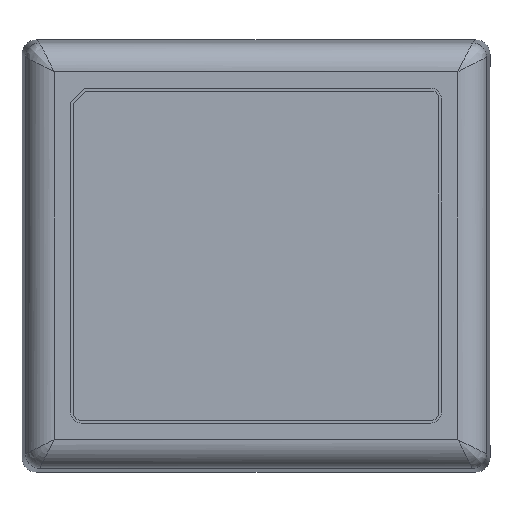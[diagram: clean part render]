
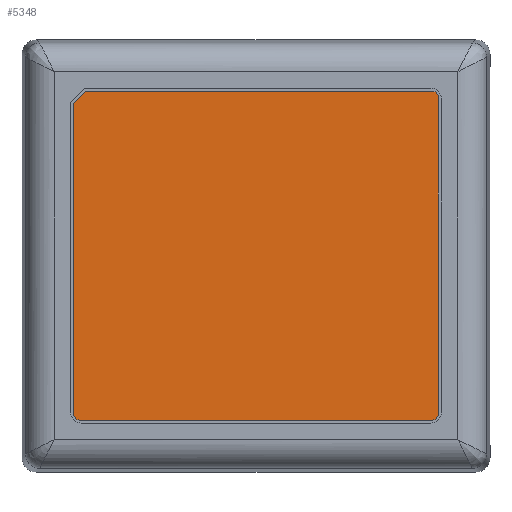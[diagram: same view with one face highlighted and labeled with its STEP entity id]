
A CAD part, top view. The second image highlights one B-rep face of the part: STEP entity #5348.
In plain terms, the highlighted planar face has unit normal (0, 0, 1).
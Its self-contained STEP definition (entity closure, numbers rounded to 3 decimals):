
#26 = AXIS2_PLACEMENT_3D ( 'NONE', #8349, #7693, #5554 ) ;
#31 = LINE ( 'NONE', #8847, #8707 ) ;
#173 = VERTEX_POINT ( 'NONE', #8830 ) ;
#219 = CARTESIAN_POINT ( 'NONE',  ( 25.501, -22.046, 31.93 ) ) ;
#634 = VERTEX_POINT ( 'NONE', #3092 ) ;
#658 = CARTESIAN_POINT ( 'NONE',  ( -25.501, 21.32, 31.93 ) ) ;
#679 = FACE_OUTER_BOUND ( 'NONE', #8779, .T. ) ;
#766 = ORIENTED_EDGE ( 'NONE', *, *, #6660, .T. ) ;
#778 = VERTEX_POINT ( 'NONE', #2248 ) ;
#801 = EDGE_CURVE ( 'NONE', #3977, #892, #4268, .T. ) ;
#850 = EDGE_CURVE ( 'NONE', #6318, #8315, #5906, .T. ) ;
#892 = VERTEX_POINT ( 'NONE', #8566 ) ;
#943 = DIRECTION ( 'NONE',  ( 0., 1., 0. ) ) ;
#1583 = DIRECTION ( 'NONE',  ( 0., 0., 1. ) ) ;
#1601 = AXIS2_PLACEMENT_3D ( 'NONE', #4881, #4219, #7733 ) ;
#1916 = VECTOR ( 'NONE', #2446, 1000. ) ;
#1935 = CIRCLE ( 'NONE', #26, 0.955 ) ;
#2080 = AXIS2_PLACEMENT_3D ( 'NONE', #2272, #1583, #943 ) ;
#2113 = CARTESIAN_POINT ( 'NONE',  ( -24.546, -22.046, 31.93 ) ) ;
#2248 = CARTESIAN_POINT ( 'NONE',  ( -23.82, 23.001, 31.93 ) ) ;
#2272 = CARTESIAN_POINT ( 'NONE',  ( 24.546, 22.046, 31.93 ) ) ;
#2446 = DIRECTION ( 'NONE',  ( -1., 0., 0. ) ) ;
#2609 = CARTESIAN_POINT ( 'NONE',  ( -24.546, -23.001, 31.93 ) ) ;
#2729 = LINE ( 'NONE', #4140, #5226 ) ;
#2994 = DIRECTION ( 'NONE',  ( 0., 1., 0. ) ) ;
#3092 = CARTESIAN_POINT ( 'NONE',  ( 24.546, 23.001, 31.93 ) ) ;
#3114 = ORIENTED_EDGE ( 'NONE', *, *, #3770, .T. ) ;
#3120 = ORIENTED_EDGE ( 'NONE', *, *, #850, .T. ) ;
#3163 = CARTESIAN_POINT ( 'NONE',  ( 24.546, 23.001, 31.93 ) ) ;
#3277 = PLANE ( 'NONE',  #4506 ) ;
#3280 = ORIENTED_EDGE ( 'NONE', *, *, #8653, .T. ) ;
#3282 = CARTESIAN_POINT ( 'NONE',  ( -25.501, -22.046, 31.93 ) ) ;
#3668 = CIRCLE ( 'NONE', #2080, 0.955 ) ;
#3770 = EDGE_CURVE ( 'NONE', #778, #6785, #7726, .T. ) ;
#3918 = EDGE_CURVE ( 'NONE', #634, #778, #8598, .T. ) ;
#3977 = VERTEX_POINT ( 'NONE', #4834 ) ;
#4122 = DIRECTION ( 'NONE',  ( 0., -1., 0. ) ) ;
#4140 = CARTESIAN_POINT ( 'NONE',  ( -24.546, -23.001, 31.93 ) ) ;
#4219 = DIRECTION ( 'NONE',  ( 0., 0., 1. ) ) ;
#4268 = LINE ( 'NONE', #219, #8069 ) ;
#4506 = AXIS2_PLACEMENT_3D ( 'NONE', #2113, #5373, #6842 ) ;
#4642 = VECTOR ( 'NONE', #5722, 1000. ) ;
#4834 = CARTESIAN_POINT ( 'NONE',  ( 25.501, -22.046, 31.93 ) ) ;
#4881 = CARTESIAN_POINT ( 'NONE',  ( -24.546, -22.046, 31.93 ) ) ;
#5226 = VECTOR ( 'NONE', #6026, 1000. ) ;
#5283 = EDGE_CURVE ( 'NONE', #173, #3977, #1935, .T. ) ;
#5348 = ADVANCED_FACE ( 'NONE', ( #679 ), #3277, .F. ) ;
#5373 = DIRECTION ( 'NONE',  ( 0., 0., -1. ) ) ;
#5536 = ORIENTED_EDGE ( 'NONE', *, *, #3918, .T. ) ;
#5554 = DIRECTION ( 'NONE',  ( 0., 1., 0. ) ) ;
#5682 = CARTESIAN_POINT ( 'NONE',  ( -23.82, 23.001, 31.93 ) ) ;
#5722 = DIRECTION ( 'NONE',  ( -0.707, -0.707, 0. ) ) ;
#5820 = EDGE_CURVE ( 'NONE', #892, #634, #3668, .T. ) ;
#5906 = CIRCLE ( 'NONE', #1601, 0.955 ) ;
#6026 = DIRECTION ( 'NONE',  ( 1., 0., 0. ) ) ;
#6318 = VERTEX_POINT ( 'NONE', #3282 ) ;
#6660 = EDGE_CURVE ( 'NONE', #6785, #6318, #31, .T. ) ;
#6785 = VERTEX_POINT ( 'NONE', #658 ) ;
#6842 = DIRECTION ( 'NONE',  ( 0., 1., 0. ) ) ;
#6951 = ORIENTED_EDGE ( 'NONE', *, *, #801, .T. ) ;
#7460 = ORIENTED_EDGE ( 'NONE', *, *, #5283, .T. ) ;
#7693 = DIRECTION ( 'NONE',  ( 0., 0., 1. ) ) ;
#7726 = LINE ( 'NONE', #5682, #4642 ) ;
#7733 = DIRECTION ( 'NONE',  ( 0., 1., 0. ) ) ;
#8069 = VECTOR ( 'NONE', #2994, 1000. ) ;
#8257 = ORIENTED_EDGE ( 'NONE', *, *, #5820, .T. ) ;
#8315 = VERTEX_POINT ( 'NONE', #2609 ) ;
#8349 = CARTESIAN_POINT ( 'NONE',  ( 24.546, -22.046, 31.93 ) ) ;
#8566 = CARTESIAN_POINT ( 'NONE',  ( 25.501, 22.046, 31.93 ) ) ;
#8598 = LINE ( 'NONE', #3163, #1916 ) ;
#8653 = EDGE_CURVE ( 'NONE', #8315, #173, #2729, .T. ) ;
#8707 = VECTOR ( 'NONE', #4122, 1000. ) ;
#8779 = EDGE_LOOP ( 'NONE', ( #5536, #3114, #766, #3120, #3280, #7460, #6951, #8257 ) ) ;
#8830 = CARTESIAN_POINT ( 'NONE',  ( 24.546, -23.001, 31.93 ) ) ;
#8847 = CARTESIAN_POINT ( 'NONE',  ( -25.501, 21.32, 31.93 ) ) ;
